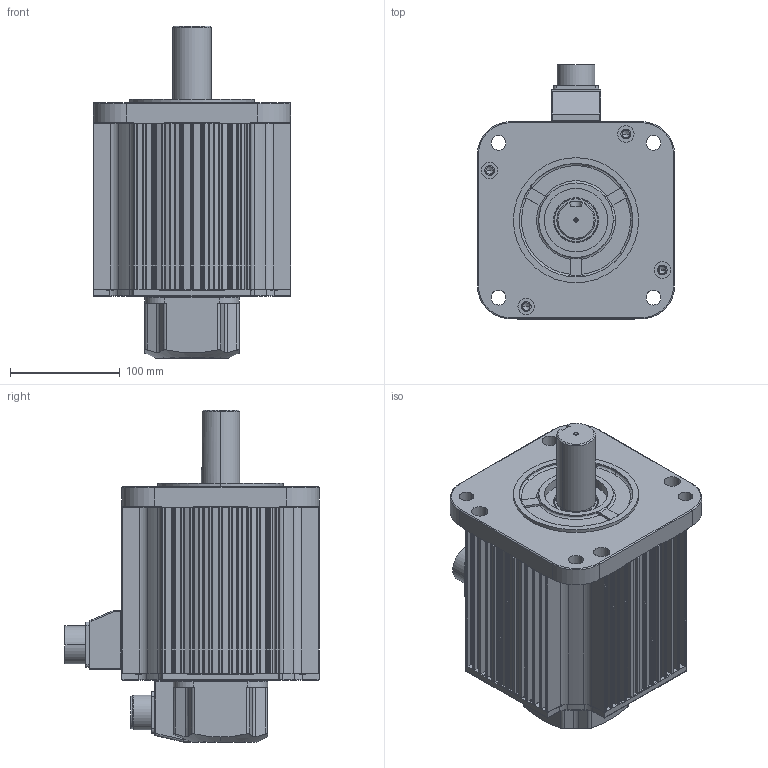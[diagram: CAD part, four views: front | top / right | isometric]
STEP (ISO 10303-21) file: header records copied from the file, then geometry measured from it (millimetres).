
FILE_DESCRIPTION (( 'STEP AP214' ), '1' );
FILE_NAME ('KAND-50B¡à1N2.STEP', '2026-09-12T03:14:40', ( '' ), ( '' ), 'SwSTEP 2.0', 'SolidWorks 2023', '' );
FILE_SCHEMA (( 'AUTOMOTIVE_DESIGN' ));
Length unit declared in the file: millimetre
Products named in the file (11): □180 FLANGE; 10050908 CONNECTOR BOX_MS22 or MS24; MS3102A 22_표준; 1005052200 ENCODER COVER; MS3102A 20-29P; 10050523 GASKET_돌출형; □180 BRACKET_BR; 10050907 RUBBER SEAL_MS22 or MS24; KAND-50B□1N2; Ø35-KEY10X50; □180-151.5mm
Assembly tree (10 placements, depth 2):
  KAND-50B□1N2
    □180-151.5mm
    □180 FLANGE
    □180 BRACKET_BR
    1005052200 ENCODER COVER
    10050523 GASKET_돌출형
    MS3102A 20-29P
    Ø35-KEY10X50
    10050907 RUBBER SEAL_MS22 or MS24
    10050908 CONNECTOR BOX_MS22 or MS24
    MS3102A 22_표준
Bounding box: 180 x 232.05 x 303.2 mm (x, y, z)
Volume: 1573694.8 mm3; surface area: 544559.3 mm2
Topology: 10 solids, 10 shells, 1748 faces, 4798 edges, 3124 vertices
Faces by surface type: cylinder 912, plane 605, torus 122, cone 72, bspline 35, sphere 2
Entity records: 59123 total; most frequent: CARTESIAN_POINT 13295, DIRECTION 9938, ORIENTED_EDGE 9524, EDGE_CURVE 4762, AXIS2_PLACEMENT_3D 3823, VERTEX_POINT 3124, VECTOR 2292, LINE 2292
